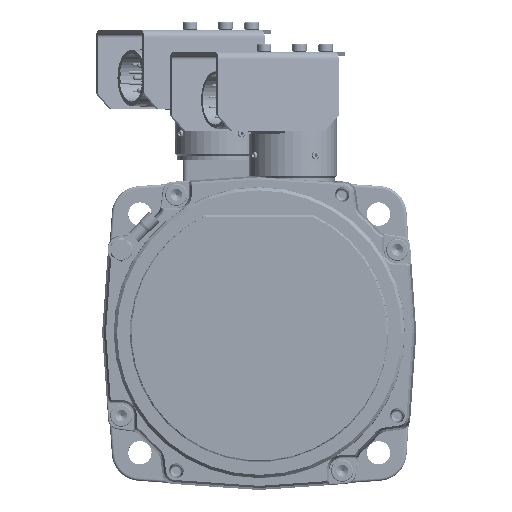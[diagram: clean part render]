
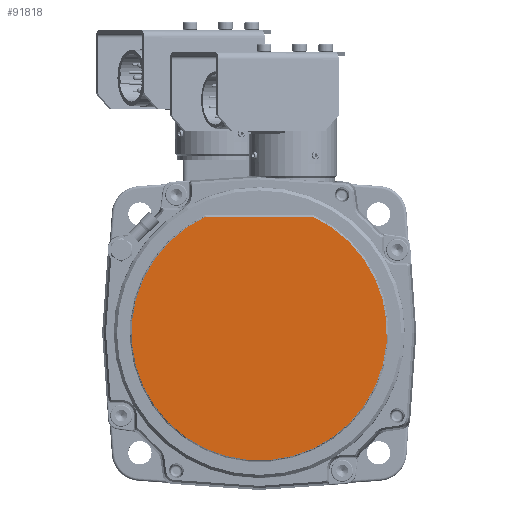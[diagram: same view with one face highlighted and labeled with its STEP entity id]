
A CAD part, top view. The second image highlights one B-rep face of the part: STEP entity #91818.
In plain terms, the highlighted planar face has unit normal (0, 0, 1).
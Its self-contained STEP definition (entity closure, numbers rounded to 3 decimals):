
#84390=CARTESIAN_POINT('',(0.,0.,63.9));
#84391=DIRECTION('',(0.,0.,-1.));
#84392=DIRECTION('',(0.418,0.908,0.));
#84393=AXIS2_PLACEMENT_3D('',#84390,#84391,#84392);
#84402=DIRECTION('',(-1.,0.,0.));
#84403=VECTOR('',#84402,41.125);
#84404=CARTESIAN_POINT('',(20.562,44.7,63.9));
#84405=LINE('',#84404,#84403);
#85066=CARTESIAN_POINT('',(20.562,44.7,63.9));
#85067=CARTESIAN_POINT('',(-20.562,44.7,63.9));
#85068=VERTEX_POINT('',#85066);
#85069=VERTEX_POINT('',#85067);
#91809=CARTESIAN_POINT('',(0.,0.,63.9));
#91810=DIRECTION('',(0.,0.,1.));
#91811=DIRECTION('',(1.,0.,0.));
#91812=AXIS2_PLACEMENT_3D('',#91809,#91810,#91811);
#91813=PLANE('',#91812);
#91814=ORIENTED_EDGE('',*,*,#91788,.T.);
#91815=ORIENTED_EDGE('',*,*,#91800,.F.);
#91816=EDGE_LOOP('',(#91814,#91815));
#91817=FACE_OUTER_BOUND('',#91816,.F.);
#91818=ADVANCED_FACE('',(#91817),#91813,.T.);
#84394=CIRCLE('',#84393,49.203);
#91788=EDGE_CURVE('',#85068,#85069,#84394,.T.);
#91800=EDGE_CURVE('',#85068,#85069,#84405,.T.);
